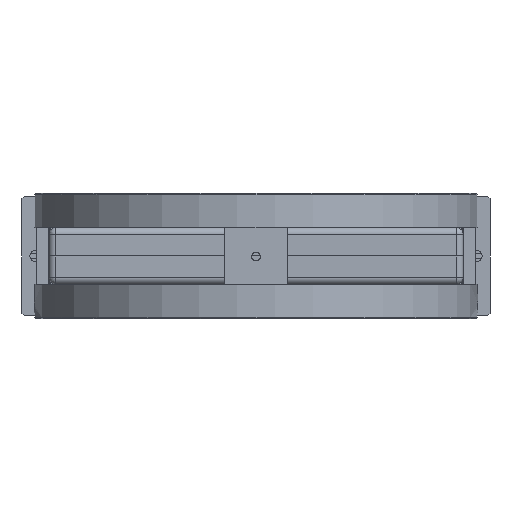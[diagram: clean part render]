
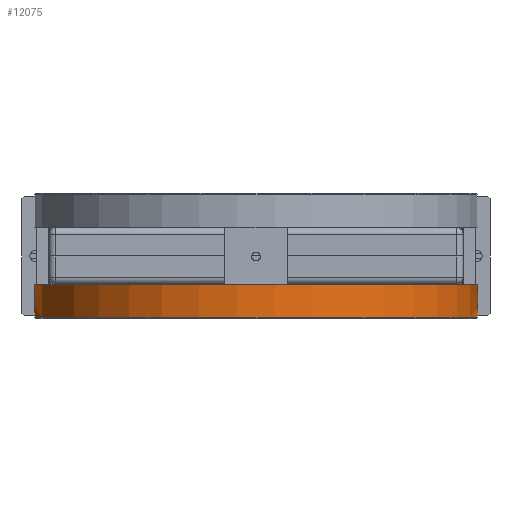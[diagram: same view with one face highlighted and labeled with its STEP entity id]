
A CAD part, front view. The second image highlights one B-rep face of the part: STEP entity #12075.
In plain terms, the highlighted cylindrical face has radius 212.425 mm (diameter 424.85 mm), a full revolution.
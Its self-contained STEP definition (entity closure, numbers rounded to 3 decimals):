
#4046=ELLIPSE('',#34825,424.85,212.425);
#4047=ELLIPSE('',#34826,424.85,212.425);
#4048=ELLIPSE('',#34830,424.85,212.425);
#4049=ELLIPSE('',#34832,424.85,212.425);
#6021=LINE('',#61447,#7901);
#6022=LINE('',#61451,#7902);
#6023=LINE('',#61459,#7903);
#6024=LINE('',#61463,#7904);
#7901=VECTOR('',#42027,1.);
#7902=VECTOR('',#42030,1.);
#7903=VECTOR('',#42037,1.);
#7904=VECTOR('',#42040,1.);
#10473=CYLINDRICAL_SURFACE('',#34833,212.425);
#12075=ADVANCED_FACE('',(#14823,#14824,#14825,#14826),#10473,.T.);
#14823=FACE_BOUND('',#17122,.T.);
#14824=FACE_BOUND('',#17123,.T.);
#14825=FACE_BOUND('',#17124,.T.);
#14826=FACE_BOUND('',#17125,.T.);
#17122=EDGE_LOOP('',(#24566,#24567,#24568,#24569,#24570));
#17123=EDGE_LOOP('',(#24571));
#17124=EDGE_LOOP('',(#24572));
#17125=EDGE_LOOP('',(#24573,#24574,#24575,#24576,#24577));
#24566=ORIENTED_EDGE('',*,*,#31051,.F.);
#24567=ORIENTED_EDGE('',*,*,#31052,.F.);
#24568=ORIENTED_EDGE('',*,*,#31053,.F.);
#24569=ORIENTED_EDGE('',*,*,#31054,.F.);
#24570=ORIENTED_EDGE('',*,*,#31055,.F.);
#24571=ORIENTED_EDGE('',*,*,#31056,.F.);
#24572=ORIENTED_EDGE('',*,*,#31057,.T.);
#24573=ORIENTED_EDGE('',*,*,#31058,.T.);
#24574=ORIENTED_EDGE('',*,*,#31059,.T.);
#24575=ORIENTED_EDGE('',*,*,#31060,.T.);
#24576=ORIENTED_EDGE('',*,*,#31061,.T.);
#24577=ORIENTED_EDGE('',*,*,#31062,.T.);
#27310=VERTEX_POINT('',#61443);
#27311=VERTEX_POINT('',#61444);
#27312=VERTEX_POINT('',#61446);
#27313=VERTEX_POINT('',#61448);
#27314=VERTEX_POINT('',#61450);
#27315=VERTEX_POINT('',#61453);
#27316=VERTEX_POINT('',#61455);
#27317=VERTEX_POINT('',#61457);
#27318=VERTEX_POINT('',#61458);
#27319=VERTEX_POINT('',#61460);
#27320=VERTEX_POINT('',#61462);
#27321=VERTEX_POINT('',#61464);
#31051=EDGE_CURVE('',#27310,#27311,#4046,.T.);
#31052=EDGE_CURVE('',#27312,#27310,#4047,.T.);
#31053=EDGE_CURVE('',#27313,#27312,#6021,.T.);
#31054=EDGE_CURVE('',#27314,#27313,#32199,.T.);
#31055=EDGE_CURVE('',#27311,#27314,#6022,.T.);
#31056=EDGE_CURVE('',#27315,#27315,#32200,.T.);
#31057=EDGE_CURVE('',#27316,#27316,#32201,.T.);
#31058=EDGE_CURVE('',#27317,#27318,#4048,.T.);
#31059=EDGE_CURVE('',#27318,#27319,#6023,.T.);
#31060=EDGE_CURVE('',#27319,#27320,#32202,.T.);
#31061=EDGE_CURVE('',#27320,#27321,#6024,.T.);
#31062=EDGE_CURVE('',#27321,#27317,#4049,.T.);
#32199=CIRCLE('',#34827,212.425);
#32200=CIRCLE('',#34828,212.425);
#32201=CIRCLE('',#34829,212.425);
#32202=CIRCLE('',#34831,212.425);
#34825=AXIS2_PLACEMENT_3D('',#61442,#42023,#42024);
#34826=AXIS2_PLACEMENT_3D('',#61445,#42025,#42026);
#34827=AXIS2_PLACEMENT_3D('',#61449,#42028,#42029);
#34828=AXIS2_PLACEMENT_3D('',#61452,#42031,#42032);
#34829=AXIS2_PLACEMENT_3D('',#61454,#42033,#42034);
#34830=AXIS2_PLACEMENT_3D('',#61456,#42035,#42036);
#34831=AXIS2_PLACEMENT_3D('',#61461,#42038,#42039);
#34832=AXIS2_PLACEMENT_3D('',#61465,#42041,#42042);
#34833=AXIS2_PLACEMENT_3D('',#61466,#42043,#42044);
#42023=DIRECTION('',(0.,0.866,0.5));
#42024=DIRECTION('',(0.,0.5,-0.866));
#42025=DIRECTION('',(0.,-0.866,0.5));
#42026=DIRECTION('',(0.,-0.5,-0.866));
#42027=DIRECTION('',(0.,0.,-1.));
#42028=DIRECTION('',(0.,0.,-1.));
#42029=DIRECTION('',(1.,0.,0.));
#42030=DIRECTION('',(0.,0.,1.));
#42031=DIRECTION('',(0.,0.,-1.));
#42032=DIRECTION('',(-0.966,-0.259,0.));
#42033=DIRECTION('',(0.,0.,-1.));
#42034=DIRECTION('',(0.966,0.259,0.));
#42035=DIRECTION('',(0.,-0.866,-0.5));
#42036=DIRECTION('',(0.,0.5,-0.866));
#42037=DIRECTION('',(0.,0.,1.));
#42038=DIRECTION('',(0.,0.,1.));
#42039=DIRECTION('',(-1.,0.,0.));
#42040=DIRECTION('',(0.,0.,-1.));
#42041=DIRECTION('',(0.,0.866,-0.5));
#42042=DIRECTION('',(0.,-0.5,-0.866));
#42043=DIRECTION('',(0.,0.,-1.));
#42044=DIRECTION('',(-0.966,-0.259,0.));
#61442=CARTESIAN_POINT('',(0.,-700.,45.));
#61443=CARTESIAN_POINT('',(-212.425,-700.,45.));
#61444=CARTESIAN_POINT('',(-212.4,-703.259,50.645));
#61445=CARTESIAN_POINT('',(0.,-700.,45.));
#61446=CARTESIAN_POINT('',(-212.4,-696.741,50.645));
#61447=CARTESIAN_POINT('',(-212.4,-696.741,16.));
#61448=CARTESIAN_POINT('',(-212.4,-696.741,51.));
#61449=CARTESIAN_POINT('',(0.,-700.,51.));
#61450=CARTESIAN_POINT('',(-212.4,-703.259,51.));
#61451=CARTESIAN_POINT('',(-212.4,-703.259,16.));
#61452=CARTESIAN_POINT('',(0.,-700.,27.2));
#61453=CARTESIAN_POINT('',(-205.187,-754.98,27.2));
#61454=CARTESIAN_POINT('',(0.,-700.,58.5));
#61455=CARTESIAN_POINT('',(205.187,-645.02,58.5));
#61456=CARTESIAN_POINT('',(0.,-700.,45.));
#61457=CARTESIAN_POINT('',(212.425,-700.,45.));
#61458=CARTESIAN_POINT('',(212.4,-703.259,50.645));
#61459=CARTESIAN_POINT('',(212.4,-703.259,16.));
#61460=CARTESIAN_POINT('',(212.4,-703.259,51.));
#61461=CARTESIAN_POINT('',(0.,-700.,51.));
#61462=CARTESIAN_POINT('',(212.4,-696.741,51.));
#61463=CARTESIAN_POINT('',(212.4,-696.741,16.));
#61464=CARTESIAN_POINT('',(212.4,-696.741,50.645));
#61465=CARTESIAN_POINT('',(0.,-700.,45.));
#61466=CARTESIAN_POINT('',(0.,-700.,16.));
